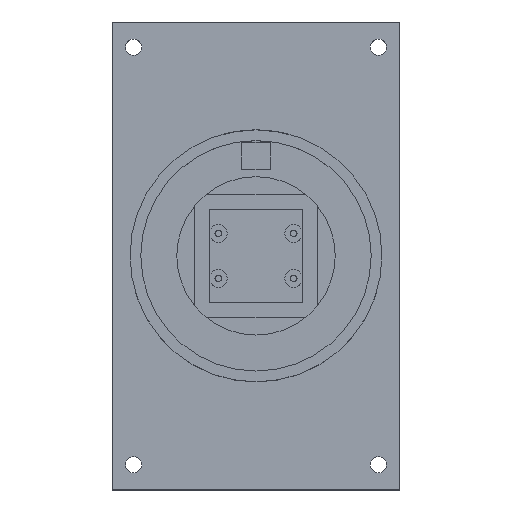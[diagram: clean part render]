
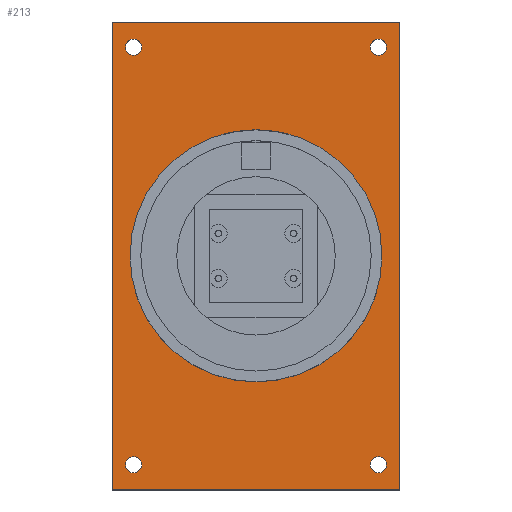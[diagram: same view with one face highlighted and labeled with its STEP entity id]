
A CAD part, top view. The second image highlights one B-rep face of the part: STEP entity #213.
In plain terms, the highlighted planar face has unit normal (0, 0, 1).
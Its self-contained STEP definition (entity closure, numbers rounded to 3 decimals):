
#24 = VERTEX_POINT('',#25);
#25 = CARTESIAN_POINT('',(0.,0.,3.));
#32 = PLANE('',#33);
#33 = AXIS2_PLACEMENT_3D('',#34,#35,#36);
#34 = CARTESIAN_POINT('',(0.,0.,0.));
#35 = DIRECTION('',(1.,0.,0.));
#36 = DIRECTION('',(0.,0.,1.));
#44 = PLANE('',#45);
#45 = AXIS2_PLACEMENT_3D('',#46,#47,#48);
#46 = CARTESIAN_POINT('',(0.,0.,0.));
#47 = DIRECTION('',(0.,1.,0.));
#48 = DIRECTION('',(0.,0.,1.));
#85 = VERTEX_POINT('',#86);
#86 = CARTESIAN_POINT('',(0.,130.,3.));
#100 = PLANE('',#101);
#101 = AXIS2_PLACEMENT_3D('',#102,#103,#104);
#102 = CARTESIAN_POINT('',(0.,130.,0.));
#103 = DIRECTION('',(0.,1.,0.));
#104 = DIRECTION('',(0.,0.,1.));
#112 = EDGE_CURVE('',#24,#85,#113,.T.);
#113 = SURFACE_CURVE('',#114,(#118,#125),.PCURVE_S1.);
#114 = LINE('',#115,#116);
#115 = CARTESIAN_POINT('',(0.,0.,3.));
#116 = VECTOR('',#117,1.);
#117 = DIRECTION('',(0.,1.,0.));
#118 = PCURVE('',#32,#119);
#119 = DEFINITIONAL_REPRESENTATION('',(#120),#124);
#120 = LINE('',#121,#122);
#121 = CARTESIAN_POINT('',(3.,0.));
#122 = VECTOR('',#123,1.);
#123 = DIRECTION('',(0.,-1.));
#124 = ( GEOMETRIC_REPRESENTATION_CONTEXT(2) 
PARAMETRIC_REPRESENTATION_CONTEXT() REPRESENTATION_CONTEXT('2D SPACE',''
  ) );
#125 = PCURVE('',#126,#131);
#126 = PLANE('',#127);
#127 = AXIS2_PLACEMENT_3D('',#128,#129,#130);
#128 = CARTESIAN_POINT('',(0.,0.,3.));
#129 = DIRECTION('',(0.,0.,1.));
#130 = DIRECTION('',(1.,0.,0.));
#131 = DEFINITIONAL_REPRESENTATION('',(#132),#136);
#132 = LINE('',#133,#134);
#133 = CARTESIAN_POINT('',(0.,0.));
#134 = VECTOR('',#135,1.);
#135 = DIRECTION('',(0.,1.));
#136 = ( GEOMETRIC_REPRESENTATION_CONTEXT(2) 
PARAMETRIC_REPRESENTATION_CONTEXT() REPRESENTATION_CONTEXT('2D SPACE',''
  ) );
#165 = EDGE_CURVE('',#24,#166,#168,.T.);
#166 = VERTEX_POINT('',#167);
#167 = CARTESIAN_POINT('',(80.,0.,3.));
#168 = SURFACE_CURVE('',#169,(#173,#180),.PCURVE_S1.);
#169 = LINE('',#170,#171);
#170 = CARTESIAN_POINT('',(0.,0.,3.));
#171 = VECTOR('',#172,1.);
#172 = DIRECTION('',(1.,0.,0.));
#173 = PCURVE('',#44,#174);
#174 = DEFINITIONAL_REPRESENTATION('',(#175),#179);
#175 = LINE('',#176,#177);
#176 = CARTESIAN_POINT('',(3.,0.));
#177 = VECTOR('',#178,1.);
#178 = DIRECTION('',(0.,1.));
#179 = ( GEOMETRIC_REPRESENTATION_CONTEXT(2) 
PARAMETRIC_REPRESENTATION_CONTEXT() REPRESENTATION_CONTEXT('2D SPACE',''
  ) );
#180 = PCURVE('',#126,#181);
#181 = DEFINITIONAL_REPRESENTATION('',(#182),#186);
#182 = LINE('',#183,#184);
#183 = CARTESIAN_POINT('',(0.,0.));
#184 = VECTOR('',#185,1.);
#185 = DIRECTION('',(1.,0.));
#186 = ( GEOMETRIC_REPRESENTATION_CONTEXT(2) 
PARAMETRIC_REPRESENTATION_CONTEXT() REPRESENTATION_CONTEXT('2D SPACE',''
  ) );
#202 = PLANE('',#203);
#203 = AXIS2_PLACEMENT_3D('',#204,#205,#206);
#204 = CARTESIAN_POINT('',(80.,0.,0.));
#205 = DIRECTION('',(1.,0.,0.));
#206 = DIRECTION('',(0.,0.,1.));
#213 = ADVANCED_FACE('',(#214,#262,#293,#324,#355,#386),#126,.T.);
#214 = FACE_BOUND('',#215,.T.);
#215 = EDGE_LOOP('',(#216,#217,#218,#241));
#216 = ORIENTED_EDGE('',*,*,#112,.F.);
#217 = ORIENTED_EDGE('',*,*,#165,.T.);
#218 = ORIENTED_EDGE('',*,*,#219,.T.);
#219 = EDGE_CURVE('',#166,#220,#222,.T.);
#220 = VERTEX_POINT('',#221);
#221 = CARTESIAN_POINT('',(80.,130.,3.));
#222 = SURFACE_CURVE('',#223,(#227,#234),.PCURVE_S1.);
#223 = LINE('',#224,#225);
#224 = CARTESIAN_POINT('',(80.,0.,3.));
#225 = VECTOR('',#226,1.);
#226 = DIRECTION('',(0.,1.,0.));
#227 = PCURVE('',#126,#228);
#228 = DEFINITIONAL_REPRESENTATION('',(#229),#233);
#229 = LINE('',#230,#231);
#230 = CARTESIAN_POINT('',(80.,0.));
#231 = VECTOR('',#232,1.);
#232 = DIRECTION('',(0.,1.));
#233 = ( GEOMETRIC_REPRESENTATION_CONTEXT(2) 
PARAMETRIC_REPRESENTATION_CONTEXT() REPRESENTATION_CONTEXT('2D SPACE',''
  ) );
#234 = PCURVE('',#202,#235);
#235 = DEFINITIONAL_REPRESENTATION('',(#236),#240);
#236 = LINE('',#237,#238);
#237 = CARTESIAN_POINT('',(3.,0.));
#238 = VECTOR('',#239,1.);
#239 = DIRECTION('',(0.,-1.));
#240 = ( GEOMETRIC_REPRESENTATION_CONTEXT(2) 
PARAMETRIC_REPRESENTATION_CONTEXT() REPRESENTATION_CONTEXT('2D SPACE',''
  ) );
#241 = ORIENTED_EDGE('',*,*,#242,.F.);
#242 = EDGE_CURVE('',#85,#220,#243,.T.);
#243 = SURFACE_CURVE('',#244,(#248,#255),.PCURVE_S1.);
#244 = LINE('',#245,#246);
#245 = CARTESIAN_POINT('',(0.,130.,3.));
#246 = VECTOR('',#247,1.);
#247 = DIRECTION('',(1.,0.,0.));
#248 = PCURVE('',#126,#249);
#249 = DEFINITIONAL_REPRESENTATION('',(#250),#254);
#250 = LINE('',#251,#252);
#251 = CARTESIAN_POINT('',(0.,130.));
#252 = VECTOR('',#253,1.);
#253 = DIRECTION('',(1.,0.));
#254 = ( GEOMETRIC_REPRESENTATION_CONTEXT(2) 
PARAMETRIC_REPRESENTATION_CONTEXT() REPRESENTATION_CONTEXT('2D SPACE',''
  ) );
#255 = PCURVE('',#100,#256);
#256 = DEFINITIONAL_REPRESENTATION('',(#257),#261);
#257 = LINE('',#258,#259);
#258 = CARTESIAN_POINT('',(3.,0.));
#259 = VECTOR('',#260,1.);
#260 = DIRECTION('',(0.,1.));
#261 = ( GEOMETRIC_REPRESENTATION_CONTEXT(2) 
PARAMETRIC_REPRESENTATION_CONTEXT() REPRESENTATION_CONTEXT('2D SPACE',''
  ) );
#262 = FACE_BOUND('',#263,.T.);
#263 = EDGE_LOOP('',(#264));
#264 = ORIENTED_EDGE('',*,*,#265,.F.);
#265 = EDGE_CURVE('',#266,#266,#268,.T.);
#266 = VERTEX_POINT('',#267);
#267 = CARTESIAN_POINT('',(8.25,7.,3.));
#268 = SURFACE_CURVE('',#269,(#274,#281),.PCURVE_S1.);
#269 = CIRCLE('',#270,2.25);
#270 = AXIS2_PLACEMENT_3D('',#271,#272,#273);
#271 = CARTESIAN_POINT('',(6.,7.,3.));
#272 = DIRECTION('',(0.,0.,1.));
#273 = DIRECTION('',(1.,0.,-0.));
#274 = PCURVE('',#126,#275);
#275 = DEFINITIONAL_REPRESENTATION('',(#276),#280);
#276 = CIRCLE('',#277,2.25);
#277 = AXIS2_PLACEMENT_2D('',#278,#279);
#278 = CARTESIAN_POINT('',(6.,7.));
#279 = DIRECTION('',(1.,0.));
#280 = ( GEOMETRIC_REPRESENTATION_CONTEXT(2) 
PARAMETRIC_REPRESENTATION_CONTEXT() REPRESENTATION_CONTEXT('2D SPACE',''
  ) );
#281 = PCURVE('',#282,#287);
#282 = CYLINDRICAL_SURFACE('',#283,2.25);
#283 = AXIS2_PLACEMENT_3D('',#284,#285,#286);
#284 = CARTESIAN_POINT('',(6.,7.,-47.));
#285 = DIRECTION('',(0.,0.,1.));
#286 = DIRECTION('',(1.,0.,-0.));
#287 = DEFINITIONAL_REPRESENTATION('',(#288),#292);
#288 = LINE('',#289,#290);
#289 = CARTESIAN_POINT('',(0.,50.));
#290 = VECTOR('',#291,1.);
#291 = DIRECTION('',(1.,0.));
#292 = ( GEOMETRIC_REPRESENTATION_CONTEXT(2) 
PARAMETRIC_REPRESENTATION_CONTEXT() REPRESENTATION_CONTEXT('2D SPACE',''
  ) );
#293 = FACE_BOUND('',#294,.T.);
#294 = EDGE_LOOP('',(#295));
#295 = ORIENTED_EDGE('',*,*,#296,.F.);
#296 = EDGE_CURVE('',#297,#297,#299,.T.);
#297 = VERTEX_POINT('',#298);
#298 = CARTESIAN_POINT('',(76.25,7.,3.));
#299 = SURFACE_CURVE('',#300,(#305,#312),.PCURVE_S1.);
#300 = CIRCLE('',#301,2.25);
#301 = AXIS2_PLACEMENT_3D('',#302,#303,#304);
#302 = CARTESIAN_POINT('',(74.,7.,3.));
#303 = DIRECTION('',(0.,0.,1.));
#304 = DIRECTION('',(1.,0.,-0.));
#305 = PCURVE('',#126,#306);
#306 = DEFINITIONAL_REPRESENTATION('',(#307),#311);
#307 = CIRCLE('',#308,2.25);
#308 = AXIS2_PLACEMENT_2D('',#309,#310);
#309 = CARTESIAN_POINT('',(74.,7.));
#310 = DIRECTION('',(1.,0.));
#311 = ( GEOMETRIC_REPRESENTATION_CONTEXT(2) 
PARAMETRIC_REPRESENTATION_CONTEXT() REPRESENTATION_CONTEXT('2D SPACE',''
  ) );
#312 = PCURVE('',#313,#318);
#313 = CYLINDRICAL_SURFACE('',#314,2.25);
#314 = AXIS2_PLACEMENT_3D('',#315,#316,#317);
#315 = CARTESIAN_POINT('',(74.,7.,-47.));
#316 = DIRECTION('',(0.,0.,1.));
#317 = DIRECTION('',(1.,0.,-0.));
#318 = DEFINITIONAL_REPRESENTATION('',(#319),#323);
#319 = LINE('',#320,#321);
#320 = CARTESIAN_POINT('',(0.,50.));
#321 = VECTOR('',#322,1.);
#322 = DIRECTION('',(1.,0.));
#323 = ( GEOMETRIC_REPRESENTATION_CONTEXT(2) 
PARAMETRIC_REPRESENTATION_CONTEXT() REPRESENTATION_CONTEXT('2D SPACE',''
  ) );
#324 = FACE_BOUND('',#325,.T.);
#325 = EDGE_LOOP('',(#326));
#326 = ORIENTED_EDGE('',*,*,#327,.F.);
#327 = EDGE_CURVE('',#328,#328,#330,.T.);
#328 = VERTEX_POINT('',#329);
#329 = CARTESIAN_POINT('',(8.25,123.,3.));
#330 = SURFACE_CURVE('',#331,(#336,#343),.PCURVE_S1.);
#331 = CIRCLE('',#332,2.25);
#332 = AXIS2_PLACEMENT_3D('',#333,#334,#335);
#333 = CARTESIAN_POINT('',(6.,123.,3.));
#334 = DIRECTION('',(0.,0.,1.));
#335 = DIRECTION('',(1.,0.,-0.));
#336 = PCURVE('',#126,#337);
#337 = DEFINITIONAL_REPRESENTATION('',(#338),#342);
#338 = CIRCLE('',#339,2.25);
#339 = AXIS2_PLACEMENT_2D('',#340,#341);
#340 = CARTESIAN_POINT('',(6.,123.));
#341 = DIRECTION('',(1.,0.));
#342 = ( GEOMETRIC_REPRESENTATION_CONTEXT(2) 
PARAMETRIC_REPRESENTATION_CONTEXT() REPRESENTATION_CONTEXT('2D SPACE',''
  ) );
#343 = PCURVE('',#344,#349);
#344 = CYLINDRICAL_SURFACE('',#345,2.25);
#345 = AXIS2_PLACEMENT_3D('',#346,#347,#348);
#346 = CARTESIAN_POINT('',(6.,123.,-47.));
#347 = DIRECTION('',(0.,0.,1.));
#348 = DIRECTION('',(1.,0.,-0.));
#349 = DEFINITIONAL_REPRESENTATION('',(#350),#354);
#350 = LINE('',#351,#352);
#351 = CARTESIAN_POINT('',(0.,50.));
#352 = VECTOR('',#353,1.);
#353 = DIRECTION('',(1.,0.));
#354 = ( GEOMETRIC_REPRESENTATION_CONTEXT(2) 
PARAMETRIC_REPRESENTATION_CONTEXT() REPRESENTATION_CONTEXT('2D SPACE',''
  ) );
#355 = FACE_BOUND('',#356,.T.);
#356 = EDGE_LOOP('',(#357));
#357 = ORIENTED_EDGE('',*,*,#358,.F.);
#358 = EDGE_CURVE('',#359,#359,#361,.T.);
#359 = VERTEX_POINT('',#360);
#360 = CARTESIAN_POINT('',(75.,65.,3.));
#361 = SURFACE_CURVE('',#362,(#367,#374),.PCURVE_S1.);
#362 = CIRCLE('',#363,35.);
#363 = AXIS2_PLACEMENT_3D('',#364,#365,#366);
#364 = CARTESIAN_POINT('',(40.,65.,3.));
#365 = DIRECTION('',(0.,0.,1.));
#366 = DIRECTION('',(1.,0.,-0.));
#367 = PCURVE('',#126,#368);
#368 = DEFINITIONAL_REPRESENTATION('',(#369),#373);
#369 = CIRCLE('',#370,35.);
#370 = AXIS2_PLACEMENT_2D('',#371,#372);
#371 = CARTESIAN_POINT('',(40.,65.));
#372 = DIRECTION('',(1.,0.));
#373 = ( GEOMETRIC_REPRESENTATION_CONTEXT(2) 
PARAMETRIC_REPRESENTATION_CONTEXT() REPRESENTATION_CONTEXT('2D SPACE',''
  ) );
#374 = PCURVE('',#375,#380);
#375 = CYLINDRICAL_SURFACE('',#376,35.);
#376 = AXIS2_PLACEMENT_3D('',#377,#378,#379);
#377 = CARTESIAN_POINT('',(40.,65.,3.));
#378 = DIRECTION('',(0.,0.,1.));
#379 = DIRECTION('',(1.,0.,-0.));
#380 = DEFINITIONAL_REPRESENTATION('',(#381),#385);
#381 = LINE('',#382,#383);
#382 = CARTESIAN_POINT('',(0.,0.));
#383 = VECTOR('',#384,1.);
#384 = DIRECTION('',(1.,0.));
#385 = ( GEOMETRIC_REPRESENTATION_CONTEXT(2) 
PARAMETRIC_REPRESENTATION_CONTEXT() REPRESENTATION_CONTEXT('2D SPACE',''
  ) );
#386 = FACE_BOUND('',#387,.T.);
#387 = EDGE_LOOP('',(#388));
#388 = ORIENTED_EDGE('',*,*,#389,.F.);
#389 = EDGE_CURVE('',#390,#390,#392,.T.);
#390 = VERTEX_POINT('',#391);
#391 = CARTESIAN_POINT('',(76.25,123.,3.));
#392 = SURFACE_CURVE('',#393,(#398,#405),.PCURVE_S1.);
#393 = CIRCLE('',#394,2.25);
#394 = AXIS2_PLACEMENT_3D('',#395,#396,#397);
#395 = CARTESIAN_POINT('',(74.,123.,3.));
#396 = DIRECTION('',(0.,0.,1.));
#397 = DIRECTION('',(1.,0.,-0.));
#398 = PCURVE('',#126,#399);
#399 = DEFINITIONAL_REPRESENTATION('',(#400),#404);
#400 = CIRCLE('',#401,2.25);
#401 = AXIS2_PLACEMENT_2D('',#402,#403);
#402 = CARTESIAN_POINT('',(74.,123.));
#403 = DIRECTION('',(1.,0.));
#404 = ( GEOMETRIC_REPRESENTATION_CONTEXT(2) 
PARAMETRIC_REPRESENTATION_CONTEXT() REPRESENTATION_CONTEXT('2D SPACE',''
  ) );
#405 = PCURVE('',#406,#411);
#406 = CYLINDRICAL_SURFACE('',#407,2.25);
#407 = AXIS2_PLACEMENT_3D('',#408,#409,#410);
#408 = CARTESIAN_POINT('',(74.,123.,-47.));
#409 = DIRECTION('',(0.,0.,1.));
#410 = DIRECTION('',(1.,0.,-0.));
#411 = DEFINITIONAL_REPRESENTATION('',(#412),#416);
#412 = LINE('',#413,#414);
#413 = CARTESIAN_POINT('',(0.,50.));
#414 = VECTOR('',#415,1.);
#415 = DIRECTION('',(1.,0.));
#416 = ( GEOMETRIC_REPRESENTATION_CONTEXT(2) 
PARAMETRIC_REPRESENTATION_CONTEXT() REPRESENTATION_CONTEXT('2D SPACE',''
  ) );
